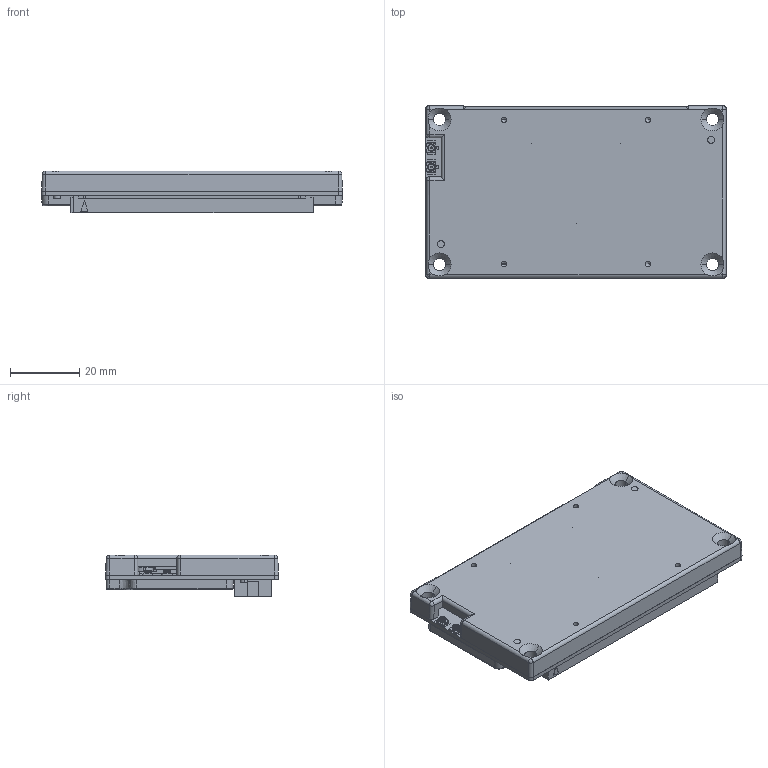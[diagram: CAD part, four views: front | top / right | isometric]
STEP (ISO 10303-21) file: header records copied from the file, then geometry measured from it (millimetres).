
FILE_DESCRIPTION((''),'2;1');
FILE_NAME('245-83310-0000-C03_ASM','2017-05-24T',('cgalutera'),(''),'CREO PARAMETRIC BY PTC INC, 2016260','CREO PARAMETRIC BY PTC INC, 2016260','');
FILE_SCHEMA(('CONFIG_CONTROL_DESIGN','GEOMETRIC_VALIDATION_PROPERTIES_MIM'));
Products named in the file (13): 142-83310-1000-C03; 080-0550-000_2; 080-1337-000_1; 244-83310-1000-C03_ASM; P3310-BOTTOM-COVER--CNC-0316; 094-0021-004_1; 153-0369-000-PRELOAD; PIN_8_00-DIE-REFERENCE-P3310; 153-0368-000; PRESSURE-PLATE-P3310-C01; TTP-186-DIE-REFERENCE-C00_ASM; 155-0343-000; 245-83310-0000-C03_ASM
Assembly tree (22 placements, depth 3):
  245-83310-0000-C03_ASM
    244-83310-1000-C03_ASM
      142-83310-1000-C03
      080-0550-000_2  x2
      080-1337-000_1
    P3310-BOTTOM-COVER--CNC-0316
    TTP-186-DIE-REFERENCE-C00_ASM
      094-0021-004_1
      153-0369-000-PRELOAD  x3
      PIN_8_00-DIE-REFERENCE-P3310  x2
      153-0368-000  x3
      PRESSURE-PLATE-P3310-C01
    155-0343-000  x2
    153-0368-000  x3
Bounding box: 87.01 x 50 x 12.13 mm (x, y, z)
Volume: 24356 mm3; surface area: 36706.9 mm2
Topology: 20 solids, 20 shells, 3831 faces, 11640 edges, 7688 vertices
Faces by surface type: plane 2516, cylinder 780, cone 206, torus 160, bspline 151, sphere 18
Entity records: 177120 total; most frequent: CARTESIAN_POINT 33394, ORIENTED_EDGE 21250, DIRECTION 19052, PRESENTATION_STYLE_ASSIGNMENT 12676, STYLED_ITEM 10628, EDGE_CURVE 10625, CURVE_STYLE 10619, VECTOR 8146
